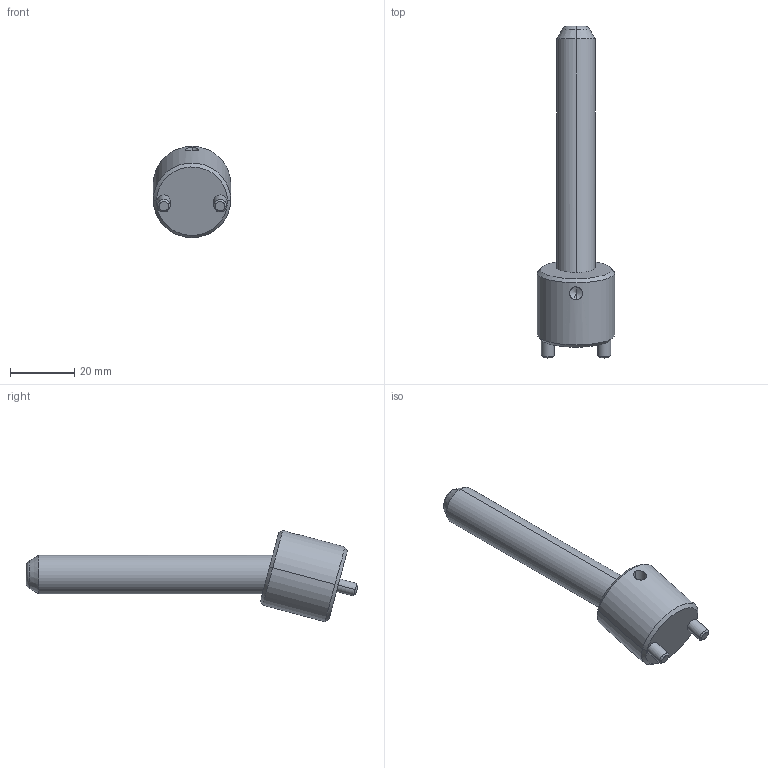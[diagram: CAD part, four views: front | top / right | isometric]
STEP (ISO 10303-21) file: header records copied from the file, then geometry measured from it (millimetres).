
FILE_DESCRIPTION(('CATIA V5 STEP Exchange'),'2;1');
FILE_NAME('C:\Users\Raffaele\Desktop\3D BOLEX\3D FILES CF BOLEX\19-INCLINED ASSEMBLY REF_CI\CI1512075.stp','2019-06-21T14:12:09+00:00',('none'),('none'),'CATIA Version 5 Release 20 GA (IN-10)','CATIA V5 STEP AP203','none');
FILE_SCHEMA(('CONFIG_CONTROL_DESIGN'));
Length unit declared in the file: millimetre
Products named in the file (1): CI1512075
Assembly tree (2 placements, depth 2):
  CI1512075
    #58
    #578
Bounding box: 24 x 103.08 x 28.36 mm (x, y, z)
Volume: 18196.2 mm3; surface area: 7022.3 mm2
Topology: 2 solids, 2 shells, 39 faces, 82 edges, 47 vertices
Faces by surface type: cone 14, cylinder 14, plane 7, torus 4
Entity records: 1458 total; most frequent: CARTESIAN_POINT 599, ORIENTED_EDGE 160, DIRECTION 145, EDGE_CURVE 80, AXIS2_PLACEMENT_3D 72, VERTEX_POINT 47, EDGE_LOOP 43, ADVANCED_FACE 39
